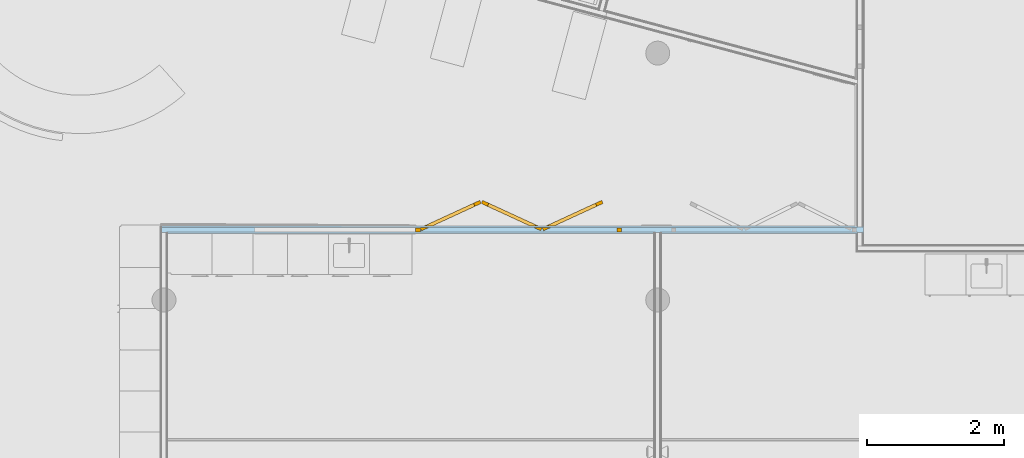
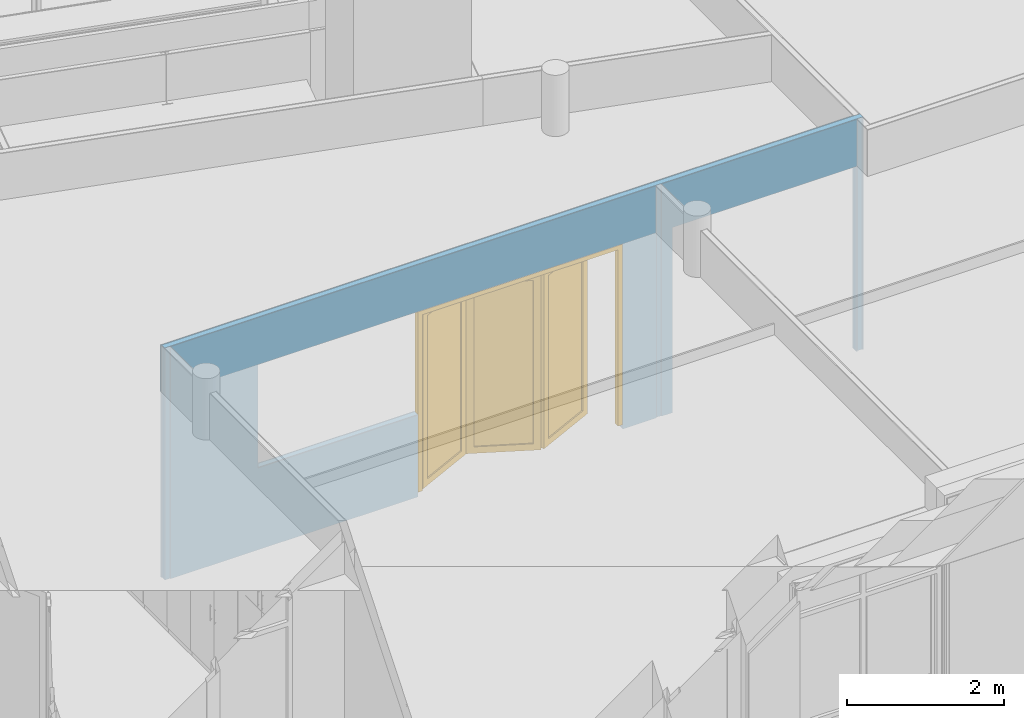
# One storey, part 26 of 167: 1 door, 3 openings, 1 element without a shape of its own, plus 3 elements that do not belong to this part.
"""IFC2X3 building model written with IfcOpenShell, lengths in millimetres."""

from ifc_helpers import new_model, entity, si_unit, converted_unit, derived_unit, money_unit, direction, frame, origin_with_axes, place, context, subcontext, project, spatial, open_shell, faceted_brep, surface_model, source, transform, mapped, material, type_object, type_shapes, element, fill, aggregate, save


model = new_model("IFC2X3")

# Units and contexts
model_context = context("Model", 3, precision=0.01, world=origin_with_axes(), true_north=direction((0.0, 1.0)))
plan_context = context("Plan", 3, precision=0.01, world=origin_with_axes(), true_north=direction((0.0, 1.0)))
body_context = subcontext(model_context, "Body", "Model", "MODEL_VIEW")
ifc_project = project(units=[si_unit("LENGTHUNIT", "METRE", prefix="MILLI"), si_unit("AREAUNIT", "SQUARE_METRE"), si_unit("VOLUMEUNIT", "CUBIC_METRE"), converted_unit("PLANEANGLEUNIT", "DEGREE", entity("IfcPlaneAngleMeasure", 0.0174532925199), si_unit("PLANEANGLEUNIT", "RADIAN"), dimensions=[0, 0, 0, 0, 0, 0, 0]), si_unit("SOLIDANGLEUNIT", "STERADIAN"), money_unit("EUR"), converted_unit("TIMEUNIT", "Year", entity("IfcTimeMeasure", 31556926.0), si_unit("TIMEUNIT", "SECOND"), dimensions=[0, 0, 1, 0, 0, 0, 0]), si_unit("MASSUNIT", "GRAM", prefix="KILO"), si_unit("THERMODYNAMICTEMPERATUREUNIT", "DEGREE_CELSIUS"), si_unit("LUMINOUSINTENSITYUNIT", "LUMEN"), si_unit("ENERGYUNIT", "JOULE", prefix="MEGA"), derived_unit("THERMALCONDUCTANCEUNIT", [(si_unit("POWERUNIT", "WATT"), 1), (si_unit("LENGTHUNIT", "METRE"), -1), (si_unit("THERMODYNAMICTEMPERATUREUNIT", "KELVIN"), -1)]), derived_unit("SPECIFICHEATCAPACITYUNIT", [(si_unit("ENERGYUNIT", "JOULE"), 1), (si_unit("MASSUNIT", "GRAM", prefix="KILO"), -1), (si_unit("THERMODYNAMICTEMPERATUREUNIT", "KELVIN"), -1)]), derived_unit("MASSDENSITYUNIT", [(si_unit("MASSUNIT", "GRAM", prefix="KILO"), 1), (si_unit("VOLUMEUNIT", "CUBIC_METRE"), -1)])], contexts=[model_context, plan_context])

# Site, building, storey
site_placement = place(None, origin_with_axes())
site = spatial("IfcSite", under=ifc_project, at=site_placement, Name="Site", CompositionType="ELEMENT")
building_placement = place(site_placement, origin_with_axes())
building = spatial("IfcBuilding", under=site, at=building_placement, Name="Naam gebouw", CompositionType="ELEMENT")
storey_placement = place(building_placement, origin_with_axes())
storey = spatial("IfcBuildingStorey", under=building, at=storey_placement, Name="Begane grond", CompositionType="ELEMENT", Elevation=0.0)

# Door
door_style = type_object("IfcDoorStyle", Name="DV1 24", ConstructionType="NOTDEFINED", OperationType="FOLDING_TO_RIGHT", ParameterTakesPrecedence=False, Sizeable=False)
shared_shape = source(origin_with_axes(), body_context, "Body", "SurfaceModel", [
    faceted_brep([(-1500.0, 0.0, 0.0), (-1433.0, 0.0, 0.0), (-1433.0, -80.0, 0.0), (-1500.0, -80.0, 0.0), (-1500.0, 0.0, 2733.0), (-1433.0, 0.0, 2733.0), (-1433.0, -80.0, 2733.0), (-1500.0, -80.0, 2733.0)], [[[0, 1, 2, 3]], [[0, 4, 5, 1]], [[1, 5, 6, 2]], [[3, 2, 6, 7]], [[4, 0, 3, 7]], [[5, 4, 7, 6]]]),
    faceted_brep([(1500.0, 0.0, 0.0), (1500.0, 0.0, 2733.0), (1500.0, -80.0, 2733.0), (1500.0, -80.0, 0.0), (1433.0, 0.0, 0.0), (1433.0, 0.0, 2733.0), (1433.0, -80.0, 2733.0), (1433.0, -80.0, 0.0)], [[[0, 1, 2, 3]], [[0, 4, 5, 1]], [[1, 5, 6, 2]], [[3, 2, 6, 7]], [[4, 0, 3, 7]], [[5, 4, 7, 6]]]),
    faceted_brep([(-1500.0, 0.0, 2800.0), (-1500.0, 0.0, 2733.0), (-1500.0, -80.0, 2733.0), (-1500.0, -80.0, 2800.0), (1500.0, 0.0, 2800.0), (1500.0, 0.0, 2733.0), (1433.0, 0.0, 2733.0), (-1433.0, 0.0, 2733.0), (-1433.0, -80.0, 2733.0), (1433.0, -80.0, 2733.0), (1500.0, -80.0, 2733.0), (1500.0, -80.0, 2800.0)], [[[0, 1, 2, 3]], [[0, 4, 5, 6, 7, 1]], [[1, 7, 8, 2]], [[3, 2, 8, 9, 10, 11]], [[4, 0, 3, 11]], [[5, 4, 11, 10]], [[6, 5, 10, 9]], [[7, 6, 9, 8]]]),
    faceted_brep([(-1433.0, 0.0, 100.0), (-1342.1674691, 41.8264429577, 100.0), (-1321.25424762, -3.58982249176, 100.0), (-1412.08677852, -45.4162654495, 100.0), (-1433.0, 0.0, 2633.0), (-1342.1674691, 41.8264429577, 2633.0), (-1321.25424762, -3.58982249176, 2633.0), (-1412.08677852, -45.4162654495, 2633.0)], [[[0, 1, 2, 3]], [[0, 4, 5, 1]], [[1, 5, 6, 2]], [[3, 2, 6, 7]], [[4, 0, 3, 7]], [[5, 4, 7, 6]]]),
    faceted_brep([(-565.246554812, 399.581951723, 100.0), (-565.246554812, 399.581951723, 2633.0), (-544.333333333, 354.165686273, 2633.0), (-544.333333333, 354.165686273, 100.0), (-656.079085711, 357.755508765, 100.0), (-656.079085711, 357.755508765, 2633.0), (-635.165864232, 312.339243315, 2633.0), (-635.165864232, 312.339243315, 100.0)], [[[0, 1, 2, 3]], [[0, 4, 5, 1]], [[1, 5, 6, 2]], [[3, 2, 6, 7]], [[4, 0, 3, 7]], [[5, 4, 7, 6]]]),
    faceted_brep([(-1433.0, 0.0, 0.0), (-565.246554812, 399.581951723, 0.0), (-544.333333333, 354.165686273, 0.0), (-1412.08677852, -45.4162654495, 0.0), (-1433.0, 0.0, 100.0), (-1342.1674691, 41.8264429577, 100.0), (-656.079085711, 357.755508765, 100.0), (-565.246554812, 399.581951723, 100.0), (-544.333333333, 354.165686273, 100.0), (-635.165864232, 312.339243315, 100.0), (-1321.25424762, -3.58982249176, 100.0), (-1412.08677852, -45.4162654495, 100.0)], [[[0, 1, 2, 3]], [[0, 4, 5, 6, 7, 1]], [[1, 7, 8, 2]], [[3, 2, 8, 9, 10, 11]], [[4, 0, 3, 11]], [[5, 4, 11, 10]], [[6, 5, 10, 9]], [[7, 6, 9, 8]]]),
    faceted_brep([(-1433.0, 0.0, 2733.0), (-1433.0, 0.0, 2633.0), (-1412.08677852, -45.4162654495, 2633.0), (-1412.08677852, -45.4162654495, 2733.0), (-565.246554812, 399.581951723, 2733.0), (-565.246554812, 399.581951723, 2633.0), (-656.079085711, 357.755508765, 2633.0), (-1342.1674691, 41.8264429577, 2633.0), (-1321.25424762, -3.58982249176, 2633.0), (-635.165864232, 312.339243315, 2633.0), (-544.333333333, 354.165686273, 2633.0), (-544.333333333, 354.165686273, 2733.0)], [[[0, 1, 2, 3]], [[0, 4, 5, 6, 7, 1]], [[1, 7, 8, 2]], [[3, 2, 8, 9, 10, 11]], [[4, 0, 3, 11]], [[5, 4, 11, 10]], [[6, 5, 10, 9]], [[7, 6, 9, 8]]]),
    surface_model("IfcShellBasedSurfaceModel", [(-648.132061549, 340.497327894, 100.0), (-1334.22044494, 24.5682620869, 100.0), (-1334.22044494, 24.5682620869, 2633.0), (-648.132061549, 340.497327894, 2633.0)], [open_shell([[[0, 1, 2, 3]]])]),
    surface_model("IfcShellBasedSurfaceModel", [(-643.112888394, 329.597424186, 100.0), (-643.112888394, 329.597424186, 2633.0), (-1329.20127178, 13.668358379, 2633.0), (-1329.20127178, 13.668358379, 100.0)], [open_shell([[[0, 1, 2, 3]]])]),
    faceted_brep([(-523.420111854, 399.581951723, 100.0), (-432.587580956, 357.755508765, 100.0), (-453.500802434, 312.339243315, 100.0), (-544.333333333, 354.165686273, 100.0), (-523.420111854, 399.581951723, 2633.0), (-432.587580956, 357.755508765, 2633.0), (-453.500802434, 312.339243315, 2633.0), (-544.333333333, 354.165686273, 2633.0)], [[[0, 1, 2, 3]], [[0, 4, 5, 1]], [[1, 5, 6, 2]], [[3, 2, 6, 7]], [[4, 0, 3, 7]], [[5, 4, 7, 6]]]),
    faceted_brep([(344.333333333, 0.0, 100.0), (344.333333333, 0.0, 2633.0), (323.420111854, -45.4162654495, 2633.0), (323.420111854, -45.4162654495, 100.0), (253.500802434, 41.8264429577, 100.0), (253.500802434, 41.8264429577, 2633.0), (232.587580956, -3.58982249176, 2633.0), (232.587580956, -3.58982249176, 100.0)], [[[0, 1, 2, 3]], [[0, 4, 5, 1]], [[1, 5, 6, 2]], [[3, 2, 6, 7]], [[4, 0, 3, 7]], [[5, 4, 7, 6]]]),
    faceted_brep([(-523.420111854, 399.581951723, 0.0), (344.333333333, 0.0, 0.0), (323.420111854, -45.4162654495, 0.0), (-544.333333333, 354.165686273, 0.0), (-523.420111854, 399.581951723, 100.0), (-432.587580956, 357.755508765, 100.0), (253.500802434, 41.8264429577, 100.0), (344.333333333, 0.0, 100.0), (323.420111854, -45.4162654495, 100.0), (232.587580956, -3.58982249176, 100.0), (-453.500802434, 312.339243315, 100.0), (-544.333333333, 354.165686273, 100.0)], [[[0, 1, 2, 3]], [[0, 4, 5, 6, 7, 1]], [[1, 7, 8, 2]], [[3, 2, 8, 9, 10, 11]], [[4, 0, 3, 11]], [[5, 4, 11, 10]], [[6, 5, 10, 9]], [[7, 6, 9, 8]]]),
    faceted_brep([(-523.420111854, 399.581951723, 2733.0), (-523.420111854, 399.581951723, 2633.0), (-544.333333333, 354.165686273, 2633.0), (-544.333333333, 354.165686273, 2733.0), (344.333333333, 0.0, 2733.0), (344.333333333, 0.0, 2633.0), (253.500802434, 41.8264429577, 2633.0), (-432.587580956, 357.755508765, 2633.0), (-453.500802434, 312.339243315, 2633.0), (232.587580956, -3.58982249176, 2633.0), (323.420111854, -45.4162654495, 2633.0), (323.420111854, -45.4162654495, 2733.0)], [[[0, 1, 2, 3]], [[0, 4, 5, 6, 7, 1]], [[1, 7, 8, 2]], [[3, 2, 8, 9, 10, 11]], [[4, 0, 3, 11]], [[5, 4, 11, 10]], [[6, 5, 10, 9]], [[7, 6, 9, 8]]]),
    surface_model("IfcShellBasedSurfaceModel", [(245.553778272, 24.5682620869, 100.0), (-440.534605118, 340.497327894, 100.0), (-440.534605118, 340.497327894, 2633.0), (245.553778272, 24.5682620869, 2633.0)], [open_shell([[[0, 1, 2, 3]]])]),
    surface_model("IfcShellBasedSurfaceModel", [(240.534605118, 13.668358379, 100.0), (240.534605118, 13.668358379, 2633.0), (-445.553778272, 329.597424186, 2633.0), (-445.553778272, 329.597424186, 100.0)], [open_shell([[[0, 1, 2, 3]]])]),
    faceted_brep([(344.333333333, 0.0, 100.0), (435.165864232, 41.8264429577, 100.0), (456.079085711, -3.58982249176, 100.0), (365.246554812, -45.4162654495, 100.0), (344.333333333, 0.0, 2633.0), (435.165864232, 41.8264429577, 2633.0), (456.079085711, -3.58982249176, 2633.0), (365.246554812, -45.4162654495, 2633.0)], [[[0, 1, 2, 3]], [[0, 4, 5, 1]], [[1, 5, 6, 2]], [[3, 2, 6, 7]], [[4, 0, 3, 7]], [[5, 4, 7, 6]]]),
    faceted_brep([(1212.08677852, 399.581951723, 100.0), (1212.08677852, 399.581951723, 2633.0), (1233.0, 354.165686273, 2633.0), (1233.0, 354.165686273, 100.0), (1121.25424762, 357.755508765, 100.0), (1121.25424762, 357.755508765, 2633.0), (1142.1674691, 312.339243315, 2633.0), (1142.1674691, 312.339243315, 100.0)], [[[0, 1, 2, 3]], [[0, 4, 5, 1]], [[1, 5, 6, 2]], [[3, 2, 6, 7]], [[4, 0, 3, 7]], [[5, 4, 7, 6]]]),
    faceted_brep([(344.333333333, 0.0, 0.0), (1212.08677852, 399.581951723, 0.0), (1233.0, 354.165686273, 0.0), (365.246554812, -45.4162654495, 0.0), (344.333333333, 0.0, 100.0), (435.165864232, 41.8264429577, 100.0), (1121.25424762, 357.755508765, 100.0), (1212.08677852, 399.581951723, 100.0), (1233.0, 354.165686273, 100.0), (1142.1674691, 312.339243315, 100.0), (456.079085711, -3.58982249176, 100.0), (365.246554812, -45.4162654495, 100.0)], [[[0, 1, 2, 3]], [[0, 4, 5, 6, 7, 1]], [[1, 7, 8, 2]], [[3, 2, 8, 9, 10, 11]], [[4, 0, 3, 11]], [[5, 4, 11, 10]], [[6, 5, 10, 9]], [[7, 6, 9, 8]]]),
    faceted_brep([(344.333333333, 0.0, 2733.0), (344.333333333, 0.0, 2633.0), (365.246554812, -45.4162654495, 2633.0), (365.246554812, -45.4162654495, 2733.0), (1212.08677852, 399.581951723, 2733.0), (1212.08677852, 399.581951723, 2633.0), (1121.25424762, 357.755508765, 2633.0), (435.165864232, 41.8264429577, 2633.0), (456.079085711, -3.58982249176, 2633.0), (1142.1674691, 312.339243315, 2633.0), (1233.0, 354.165686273, 2633.0), (1233.0, 354.165686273, 2733.0)], [[[0, 1, 2, 3]], [[0, 4, 5, 6, 7, 1]], [[1, 7, 8, 2]], [[3, 2, 8, 9, 10, 11]], [[4, 0, 3, 11]], [[5, 4, 11, 10]], [[6, 5, 10, 9]], [[7, 6, 9, 8]]]),
    surface_model("IfcShellBasedSurfaceModel", [(1129.20127178, 340.497327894, 100.0), (443.112888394, 24.5682620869, 100.0), (443.112888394, 24.5682620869, 2633.0), (1129.20127178, 340.497327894, 2633.0)], [open_shell([[[0, 1, 2, 3]]])]),
    surface_model("IfcShellBasedSurfaceModel", [(1134.22044494, 329.597424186, 100.0), (1134.22044494, 329.597424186, 2633.0), (448.132061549, 13.668358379, 2633.0), (448.132061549, 13.668358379, 100.0)], [open_shell([[[0, 1, 2, 3]]])]),
])
type_shapes(door_style, [shared_shape])
wall_placement = place(storey_placement, frame((24600.0, 8223.34783859, -100.0), z_axis=(0.0, 0.0, 1.0), x_axis=(-1.0, 0.0, 0.0)))
opening_3_placement = place(wall_placement, frame((5030.0, 0.0, 100.0), z_axis=(0.0, 0.0, 1.0), x_axis=(1.0, 0.0, 0.0)))
door_placement = place(opening_3_placement, frame((1500.0, 0.0, 0.0), z_axis=(0.0, 0.0, 1.0), x_axis=(-1.0, 0.0, 0.0)))
door = element("IfcDoor", 1, at=door_placement, inside=storey, type_object=door_style, Name="32_Deur_Si-02s", ObjectType="DOOR", OverallHeight=2800.0, OverallWidth=3000.0, context=body_context, shape_type="MappedRepresentation", body=[
    mapped(shared_shape, transform((1500.0, 30.0, 0.0))),
])

# Wall, openings
wall_type = type_object("IfcWallType", Name="_TenW_22_Metalstud 100 enkel gipsvezelplaat 100", PredefinedType="NOTDEFINED")
wall = element("IfcWall", 2, at=wall_placement, inside=storey, type_object=wall_type, Name="22_Wand_Wand-x")
opening_1_placement = place(wall_placement, frame((7705.0, 0.0, 1300.0), z_axis=(0.0, 0.0, 1.0), x_axis=(1.0, 0.0, 0.0)))
element("IfcOpeningElement", 3, at=opening_1_placement, cuts=wall, Name="31_Raam_Hi-53", context=body_context, shape_type="Brep", body=[
    faceted_brep([(-1175.0, 100.0, 1600.0), (-1175.0, 100.0, 0.0), (-1175.0, -200.0, 0.0), (-1175.0, -200.0, 1600.0), (1175.0, 100.0, 1600.0), (1175.0, 100.0, 0.0), (1175.0, -200.0, 0.0), (1175.0, -200.0, 1600.0)], [[[0, 1, 2, 3]], [[0, 4, 5, 1]], [[1, 5, 6, 2]], [[3, 2, 6, 7]], [[4, 0, 3, 7]], [[5, 4, 7, 6]]]),
])
opening_2_placement = place(wall_placement, frame((1450.0, 0.0, 100.0), z_axis=(0.0, 0.0, 1.0), x_axis=(1.0, 0.0, 0.0)))
element("IfcOpeningElement", 4, at=opening_2_placement, cuts=wall, Name="32_Deur_Si-03", context=body_context, shape_type="Brep", body=[
    faceted_brep([(1350.0, 200.0, 0.0), (1350.0, 200.0, 2800.0), (1350.0, -100.0, 2800.0), (1350.0, -100.0, 0.0), (-1350.0, 200.0, 0.0), (-1350.0, 200.0, 2800.0), (-1350.0, -100.0, 2800.0), (-1350.0, -100.0, 0.0)], [[[0, 1, 2, 3]], [[0, 4, 5, 1]], [[1, 5, 6, 2]], [[3, 2, 6, 7]], [[4, 0, 3, 7]], [[5, 4, 7, 6]]]),
])
opening_3 = element("IfcOpeningElement", 5, at=opening_3_placement, cuts=wall, Name="32_Deur_Si-02s", context=body_context, shape_type="Brep", body=[
    faceted_brep([(-1500.0, -100.0, 0.0), (-1500.0, -100.0, 2800.0), (-1500.0, 200.0, 2800.0), (-1500.0, 200.0, 0.0), (1500.0, -100.0, 0.0), (1500.0, -100.0, 2800.0), (1500.0, 200.0, 2800.0), (1500.0, 200.0, 0.0)], [[[0, 1, 2, 3]], [[0, 4, 5, 1]], [[1, 5, 6, 2]], [[3, 2, 6, 7]], [[4, 0, 3, 7]], [[5, 4, 7, 6]]]),
])

fill(opening_3, door)

# Building element part
ifc_material_1 = material(Name="Gipsplaat watervast")
building_element_part_1_placement = place(wall_placement, origin_with_axes())
building_element_part_1 = element("IfcBuildingElementPart", 6, at=building_element_part_1_placement, material=ifc_material_1, Name="Gipsplaat watervast", context=body_context, shape_type="Brep", body=[
    faceted_brep([(6530.0, 50.0, 1300.0), (6530.0, 37.5, 1300.0), (8880.0, 37.5, 1300.0), (8880.0, 50.0, 1300.0), (6530.0, 37.5, 100.0), (6530.0, 50.0, 100.0), (3530.0, 37.5, 2900.0), (6530.0, 37.5, 2900.0), (8880.0, 37.5, 2900.0), (6530.0, 37.5, 30.0), (10162.5, 37.5, 30.0), (10162.5, 37.5, 3630.0), (3037.5, 37.5, 3630.0), (3037.5, 37.5, 30.0), (3530.0, 37.5, 30.0), (3530.0, 37.5, 100.0), (8880.0, 50.0, 2900.0), (3530.0, 50.0, 2900.0), (3530.0, 50.0, 100.0), (3530.0, 50.0, 30.0), (3037.5, 50.0, 30.0), (3037.5, 50.0, 3630.0), (10162.5, 50.0, 3630.0), (10162.5, 50.0, 30.0), (6530.0, 50.0, 30.0), (6530.0, 50.0, 2900.0)], [[[0, 1, 2, 3]], [[4, 1, 0, 5]], [[6, 7, 8, 2, 1, 4, 9, 10, 11, 12, 13, 14, 15]], [[8, 16, 3, 2]], [[17, 18, 19, 20, 21, 22, 23, 24, 5, 0, 3, 16, 25]], [[4, 5, 24, 9]], [[7, 6, 17, 25, 16, 8]], [[23, 10, 9, 24]], [[22, 11, 10, 23]], [[21, 12, 11, 22]], [[12, 21, 20, 13]], [[13, 20, 19, 14]], [[18, 15, 14, 19]], [[6, 15, 18, 17]]]),
    faceted_brep([(2800.0, 37.5, 2900.0), (2800.0, 37.5, 100.0), (2800.0, 37.5, 30.0), (2962.5, 37.5, 30.0), (2962.5, 37.5, 3630.0), (87.5, 37.5, 3630.0), (87.5, 37.5, 30.0), (100.0, 37.5, 30.0), (100.0, 37.5, 100.0), (100.0, 37.5, 2900.0), (2800.0, 50.0, 2900.0), (2800.0, 50.0, 100.0), (2800.0, 50.0, 30.0), (2962.5, 50.0, 30.0), (2962.5, 50.0, 3630.0), (87.5, 50.0, 3630.0), (87.5, 50.0, 30.0), (100.0, 50.0, 30.0), (100.0, 50.0, 100.0), (100.0, 50.0, 2900.0)], [[[0, 1, 2, 3, 4, 5, 6, 7, 8, 9]], [[1, 0, 10, 11]], [[1, 11, 12, 2]], [[12, 13, 3, 2]], [[13, 14, 4, 3]], [[14, 15, 5, 4]], [[6, 5, 15, 16]], [[7, 6, 16, 17]], [[18, 8, 7, 17]], [[9, 8, 18, 19]], [[0, 9, 19, 10]], [[19, 18, 17, 16, 15, 14, 13, 12, 11, 10]]]),
    faceted_brep([(0.0, 50.0, 30.0), (0.0, 37.5, 30.0), (0.0, 37.5, 3630.0), (0.0, 50.0, 3630.0), (12.5, 37.5, 30.0), (12.5, 50.0, 30.0), (12.5, 37.5, 3630.0), (12.5, 50.0, 3630.0)], [[[0, 1, 2, 3]], [[4, 1, 0, 5]], [[1, 4, 6, 2]], [[6, 7, 3, 2]], [[5, 0, 3, 7]], [[4, 5, 7, 6]]]),
])

ifc_material_2 = material(Name="Isolatie - Steenwol zacht")
building_element_part_2_placement = place(wall_placement, origin_with_axes())
building_element_part_2 = element("IfcBuildingElementPart", 7, at=building_element_part_2_placement, material=ifc_material_2, Name="Isolatie - Steenwol zacht", context=body_context, shape_type="Brep", body=[
    faceted_brep([(6530.0, 37.5, 1300.0), (6530.0, -37.5, 1300.0), (8880.0, -37.5, 1300.0), (8880.0, 37.5, 1300.0), (6530.0, -37.5, 100.0), (6530.0, 37.5, 100.0), (3530.0, -37.5, 2900.0), (6530.0, -37.5, 2900.0), (8880.0, -37.5, 2900.0), (6530.0, -37.5, 30.0), (10237.5, -37.5, 30.0), (10237.5, -37.5, 3630.0), (0.0, -37.5, 3630.0), (0.0, -37.5, 30.0), (100.0, -37.5, 30.0), (100.0, -37.5, 100.0), (100.0, -37.5, 2900.0), (2800.0, -37.5, 2900.0), (2800.0, -37.5, 100.0), (2800.0, -37.5, 30.0), (3530.0, -37.5, 30.0), (3530.0, -37.5, 100.0), (8880.0, 37.5, 2900.0), (3530.0, 37.5, 2900.0), (3530.0, 37.5, 100.0), (3530.0, 37.5, 30.0), (2800.0, 37.5, 30.0), (2800.0, 37.5, 100.0), (2800.0, 37.5, 2900.0), (100.0, 37.5, 2900.0), (100.0, 37.5, 100.0), (100.0, 37.5, 30.0), (0.0, 37.5, 30.0), (0.0, 37.5, 3630.0), (10237.5, 37.5, 3630.0), (10237.5, 37.5, 30.0), (6530.0, 37.5, 30.0), (6530.0, 37.5, 2900.0)], [[[0, 1, 2, 3]], [[4, 1, 0, 5]], [[6, 7, 8, 2, 1, 4, 9, 10, 11, 12, 13, 14, 15, 16, 17, 18, 19, 20, 21]], [[22, 3, 2, 8]], [[23, 24, 25, 26, 27, 28, 29, 30, 31, 32, 33, 34, 35, 36, 5, 0, 3, 22, 37]], [[4, 5, 36, 9]], [[7, 6, 23, 37, 22, 8]], [[10, 9, 36, 35]], [[11, 10, 35, 34]], [[12, 11, 34, 33]], [[33, 32, 13, 12]], [[32, 31, 14, 13]], [[15, 14, 31, 30]], [[15, 30, 29, 16]], [[16, 29, 28, 17]], [[17, 28, 27, 18]], [[27, 26, 19, 18]], [[26, 25, 20, 19]], [[24, 21, 20, 25]], [[6, 21, 24, 23]]]),
])

building_element_part_3_placement = place(wall_placement, origin_with_axes())
building_element_part_3 = element("IfcBuildingElementPart", 8, at=building_element_part_3_placement, material=ifc_material_1, Name="Gipsplaat watervast", context=body_context, shape_type="Brep", body=[
    faceted_brep([(6530.0, -37.5, 1300.0), (6530.0, -50.0, 1300.0), (8880.0, -50.0, 1300.0), (8880.0, -37.5, 1300.0), (6530.0, -50.0, 100.0), (6530.0, -37.5, 100.0), (3530.0, -50.0, 2900.0), (6530.0, -50.0, 2900.0), (8880.0, -50.0, 2900.0), (6530.0, -50.0, 30.0), (10250.0, -50.0, 30.0), (10250.0, -50.0, 3630.0), (87.5, -50.0, 3630.0), (87.5, -50.0, 30.0), (100.0, -50.0, 30.0), (100.0, -50.0, 100.0), (100.0, -50.0, 1300.0), (100.0, -50.0, 2900.0), (2800.0, -50.0, 2900.0), (2800.0, -50.0, 100.0), (2800.0, -50.0, 30.0), (3530.0, -50.0, 30.0), (3530.0, -50.0, 100.0), (8880.0, -37.5, 2900.0), (3530.0, -37.5, 2900.0), (3530.0, -37.5, 100.0), (3530.0, -37.5, 30.0), (2800.0, -37.5, 30.0), (2800.0, -37.5, 100.0), (2800.0, -37.5, 2900.0), (100.0, -37.5, 2900.0), (100.0, -37.5, 1300.0), (100.0, -37.5, 100.0), (100.0, -37.5, 30.0), (87.5, -37.5, 30.0), (87.5, -37.5, 3630.0), (10250.0, -37.5, 3630.0), (10250.0, -37.5, 30.0), (6530.0, -37.5, 30.0), (6530.0, -37.5, 2900.0)], [[[0, 1, 2, 3]], [[4, 1, 0, 5]], [[6, 7, 8, 2, 1, 4, 9, 10, 11, 12, 13, 14, 15, 16, 17, 18, 19, 20, 21, 22]], [[23, 3, 2, 8]], [[24, 25, 26, 27, 28, 29, 30, 31, 32, 33, 34, 35, 36, 37, 38, 5, 0, 3, 23, 39]], [[4, 5, 38, 9]], [[7, 6, 24, 39, 23, 8]], [[10, 9, 38, 37]], [[11, 10, 37, 36]], [[35, 12, 11, 36]], [[35, 34, 13, 12]], [[34, 33, 14, 13]], [[33, 32, 15, 14]], [[16, 15, 32, 31]], [[16, 31, 30, 17]], [[17, 30, 29, 18]], [[18, 29, 28, 19]], [[28, 27, 20, 19]], [[27, 26, 21, 20]], [[25, 22, 21, 26]], [[6, 22, 25, 24]]]),
    faceted_brep([(0.0, -37.5, 30.0), (0.0, -50.0, 30.0), (0.0, -50.0, 3630.0), (0.0, -37.5, 3630.0), (12.5, -50.0, 30.0), (12.5, -37.5, 30.0), (12.5, -50.0, 3630.0), (12.5, -37.5, 3630.0)], [[[0, 1, 2, 3]], [[4, 1, 0, 5]], [[1, 4, 6, 2]], [[6, 7, 3, 2]], [[5, 0, 3, 7]], [[4, 5, 7, 6]]]),
])

aggregate(wall, [building_element_part_1, building_element_part_2, building_element_part_3])

save(model, "model.ifc")
